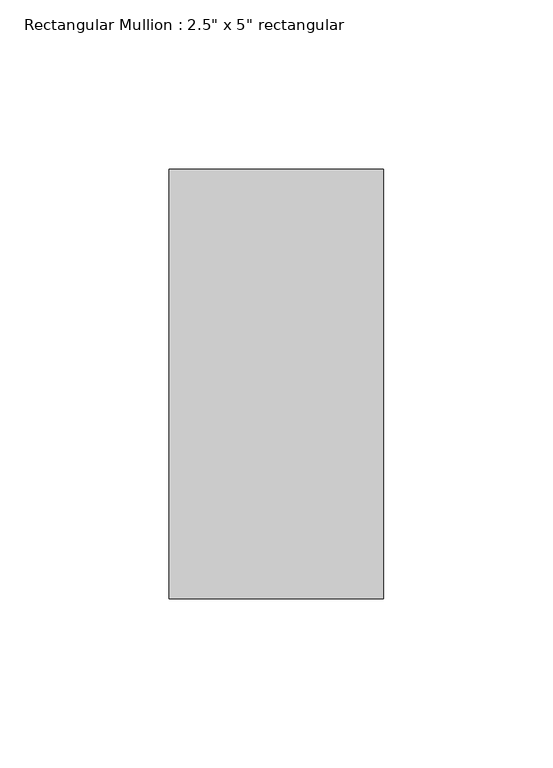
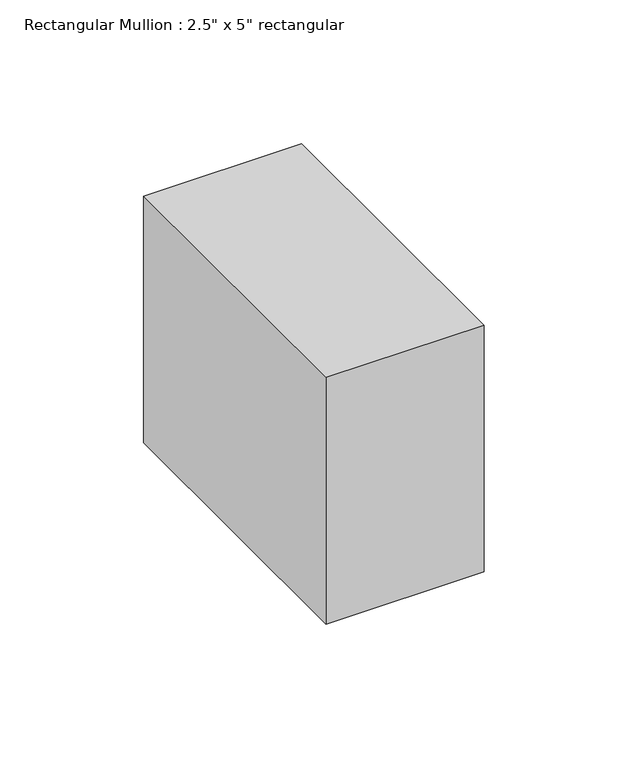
"""IFC4 building model written with IfcOpenShell, lengths in millimetres: member geometry."""

from ifc_helpers import new_model, si_unit, frame, origin, place, context, project, spatial, polyline, outline, extrude, source, transform, mapped, element, save


def member_3fe7ce38(model_context):
    return source(origin(), model_context, "Body", "SweptSolid", [
        extrude(outline(polyline([(31.75, 63.5), (31.75, -63.5), (-31.75, -63.5), (-31.75, 63.5), (31.75, 63.5)])), frame((0.0, 0.0, -104.775), z_axis=(0.0, 0.0, 1.0), x_axis=(1.0, 0.0, 0.0)), (0.0, 0.0, 1.0), 104.775),
    ])


if __name__ == "__main__":
    model = new_model("IFC4")
    model_context = context("Model", 3, world=origin())
    ifc_project = project(units=[si_unit("LENGTHUNIT", "METRE", prefix="MILLI")], contexts=[model_context])
    site = spatial("IfcSite", under=ifc_project)
    building = spatial("IfcBuilding", under=site)
    placement = place(None, origin())
    member_shape = member_3fe7ce38(model_context)
    element("IfcMember", 1, ObjectType="Rectangular Mullion : 2.5\" x 5\" rectangular", at=placement, inside=building, context=model_context, shape_type="MappedRepresentation", body=[
        mapped(member_shape, transform((0.0, 0.0, 0.0), x_axis=(1.0, 0.0, 0.0), y_axis=(0.0, 1.0, 0.0), z_axis=(0.0, 0.0, 1.0))),
    ])
    save(model, "model.ifc")
